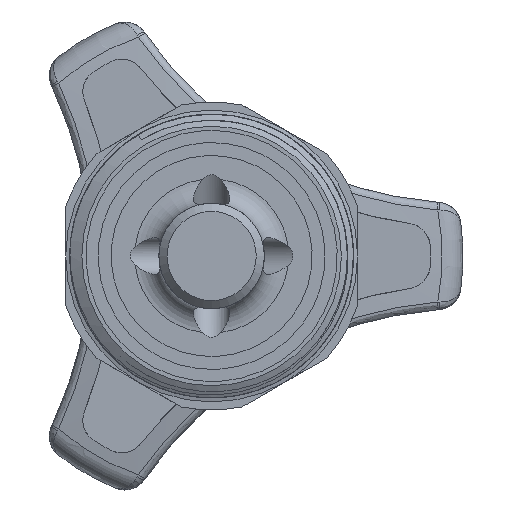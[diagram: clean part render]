
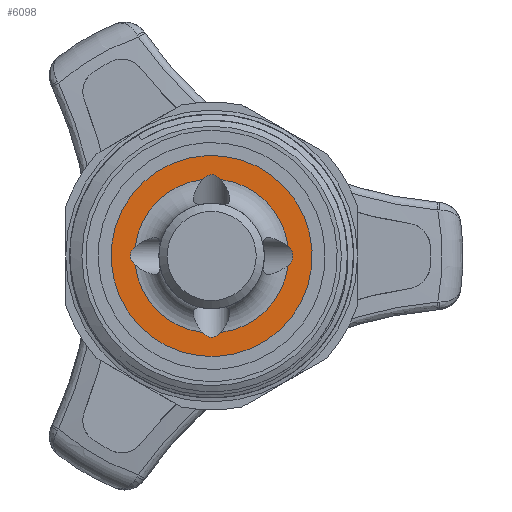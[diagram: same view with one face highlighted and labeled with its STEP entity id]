
A CAD part, front view. The second image highlights one B-rep face of the part: STEP entity #6098.
In plain terms, the highlighted planar face has unit normal (0, -1, 0).
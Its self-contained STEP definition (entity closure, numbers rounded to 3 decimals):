
#99=ELLIPSE('',#7655,4.5,2.25);
#100=ELLIPSE('',#7657,4.5,2.25);
#101=ELLIPSE('',#7659,4.5,2.25);
#102=ELLIPSE('',#7661,4.5,2.25);
#807=PLANE('',#7686);
#1595=EDGE_LOOP('',(#3510,#3511,#3512,#3513,#3514,#3515,#3516,#3517));
#1596=EDGE_LOOP('',(#3518));
#1940=CIRCLE('',#7673,15.);
#1946=CIRCLE('',#7682,9.5);
#1947=CIRCLE('',#7683,9.5);
#1948=CIRCLE('',#7684,9.5);
#1949=CIRCLE('',#7685,9.5);
#3510=ORIENTED_EDGE('',*,*,#4729,.F.);
#3511=ORIENTED_EDGE('',*,*,#4759,.F.);
#3512=ORIENTED_EDGE('',*,*,#4739,.F.);
#3513=ORIENTED_EDGE('',*,*,#4760,.F.);
#3514=ORIENTED_EDGE('',*,*,#4744,.F.);
#3515=ORIENTED_EDGE('',*,*,#4761,.F.);
#3516=ORIENTED_EDGE('',*,*,#4734,.F.);
#3517=ORIENTED_EDGE('',*,*,#4762,.F.);
#3518=ORIENTED_EDGE('',*,*,#4753,.T.);
#4729=EDGE_CURVE('',#6940,#6941,#99,.T.);
#4734=EDGE_CURVE('',#6945,#6946,#100,.T.);
#4739=EDGE_CURVE('',#6950,#6951,#101,.T.);
#4744=EDGE_CURVE('',#6955,#6956,#102,.T.);
#4753=EDGE_CURVE('',#6964,#6964,#1940,.T.);
#4759=EDGE_CURVE('',#6951,#6940,#1946,.T.);
#4760=EDGE_CURVE('',#6956,#6950,#1947,.T.);
#4761=EDGE_CURVE('',#6946,#6955,#1948,.T.);
#4762=EDGE_CURVE('',#6941,#6945,#1949,.T.);
#6098=ADVANCED_FACE('',(#6422,#6423),#807,.T.);
#6422=FACE_BOUND('',#1595,.T.);
#6423=FACE_BOUND('',#1596,.T.);
#6940=VERTEX_POINT('',#20479);
#6941=VERTEX_POINT('',#20480);
#6945=VERTEX_POINT('',#20610);
#6946=VERTEX_POINT('',#20611);
#6950=VERTEX_POINT('',#20741);
#6951=VERTEX_POINT('',#20742);
#6955=VERTEX_POINT('',#20872);
#6956=VERTEX_POINT('',#20873);
#6964=VERTEX_POINT('',#20953);
#7655=AXIS2_PLACEMENT_3D('',#20478,#9230,#9231);
#7657=AXIS2_PLACEMENT_3D('',#20609,#9234,#9235);
#7659=AXIS2_PLACEMENT_3D('',#20740,#9238,#9239);
#7661=AXIS2_PLACEMENT_3D('',#20871,#9242,#9243);
#7673=AXIS2_PLACEMENT_3D('',#20952,#9266,#9267);
#7682=AXIS2_PLACEMENT_3D('',#20963,#9284,#9285);
#7683=AXIS2_PLACEMENT_3D('',#20964,#9286,#9287);
#7684=AXIS2_PLACEMENT_3D('',#20965,#9288,#9289);
#7685=AXIS2_PLACEMENT_3D('',#20966,#9290,#9291);
#7686=AXIS2_PLACEMENT_3D('',#20967,#9292,#9293);
#9230=DIRECTION('',(0.,-1.,0.));
#9231=DIRECTION('',(-1.,0.,0.));
#9234=DIRECTION('',(0.,-1.,0.));
#9235=DIRECTION('',(0.,0.,-1.));
#9238=DIRECTION('',(0.,-1.,0.));
#9239=DIRECTION('',(0.,0.,1.));
#9242=DIRECTION('',(0.,-1.,0.));
#9243=DIRECTION('',(1.,0.,0.));
#9266=DIRECTION('',(0.,-1.,0.));
#9267=DIRECTION('',(-1.,0.,0.));
#9284=DIRECTION('',(0.,-1.,0.));
#9285=DIRECTION('',(-1.,0.,0.));
#9286=DIRECTION('',(0.,-1.,0.));
#9287=DIRECTION('',(-1.,0.,0.));
#9288=DIRECTION('',(0.,-1.,0.));
#9289=DIRECTION('',(-1.,0.,0.));
#9290=DIRECTION('',(0.,-1.,0.));
#9291=DIRECTION('',(-1.,0.,0.));
#9292=DIRECTION('',(0.,-1.,0.));
#9293=DIRECTION('',(1.,0.,0.));
#20478=CARTESIAN_POINT('',(13.333,-44.308,0.));
#20479=CARTESIAN_POINT('',(17.234,-44.308,-1.121));
#20480=CARTESIAN_POINT('',(17.234,-44.308,1.121));
#20609=CARTESIAN_POINT('',(7.801,-44.308,5.532));
#20610=CARTESIAN_POINT('',(8.922,-44.308,9.434));
#20611=CARTESIAN_POINT('',(6.68,-44.308,9.434));
#20740=CARTESIAN_POINT('',(7.801,-44.308,-5.532));
#20741=CARTESIAN_POINT('',(6.68,-44.308,-9.434));
#20742=CARTESIAN_POINT('',(8.922,-44.308,-9.434));
#20871=CARTESIAN_POINT('',(2.269,-44.308,0.));
#20872=CARTESIAN_POINT('',(-1.633,-44.308,1.121));
#20873=CARTESIAN_POINT('',(-1.633,-44.308,-1.121));
#20952=CARTESIAN_POINT('',(7.801,-44.308,0.));
#20953=CARTESIAN_POINT('',(-7.199,-44.308,0.));
#20963=CARTESIAN_POINT('',(7.801,-44.308,0.));
#20964=CARTESIAN_POINT('',(7.801,-44.308,0.));
#20965=CARTESIAN_POINT('',(7.801,-44.308,0.));
#20966=CARTESIAN_POINT('',(7.801,-44.308,0.));
#20967=CARTESIAN_POINT('',(7.801,-44.308,-9.5));
